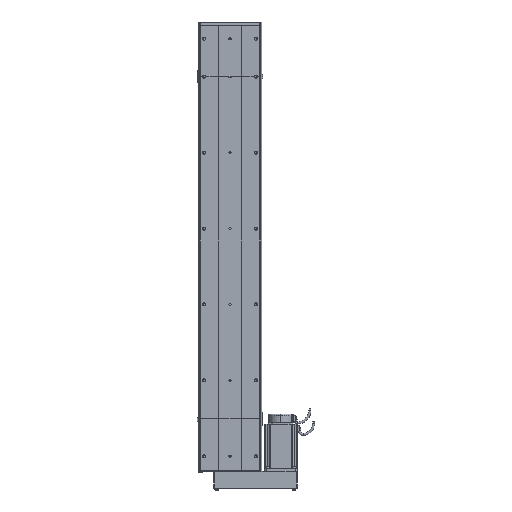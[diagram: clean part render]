
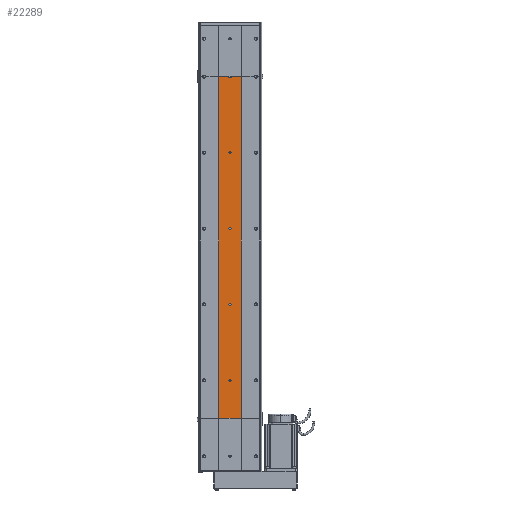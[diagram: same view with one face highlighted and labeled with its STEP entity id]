
A CAD part, front view. The second image highlights one B-rep face of the part: STEP entity #22289.
In plain terms, the highlighted planar face has unit normal (0, -1, 0).
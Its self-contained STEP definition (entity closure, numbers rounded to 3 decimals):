
#16789 = CARTESIAN_POINT ( 'NONE',  ( 0., -32.5, 897. ) ) ;
#16805 = CARTESIAN_POINT ( 'NONE',  ( 0., -32.5, 503. ) ) ;
#16828 = DIRECTION ( 'NONE',  ( 0., 0., -1. ) ) ;
#16829 = DIRECTION ( 'NONE',  ( 0., -1., 0. ) ) ;
#16830 = CARTESIAN_POINT ( 'NONE',  ( 0., -32.5, 700. ) ) ;
#16831 = AXIS2_PLACEMENT_3D ( 'NONE', #16830, #16829, #16828 ) ;
#16849 = CIRCLE ( 'NONE', #16831, 3. ) ;
#16856 = DIRECTION ( 'NONE',  ( 0., 0., 1. ) ) ;
#16857 = DIRECTION ( 'NONE',  ( 0., 1., 0. ) ) ;
#16858 = CARTESIAN_POINT ( 'NONE',  ( 0., -32.5, 900. ) ) ;
#16859 = AXIS2_PLACEMENT_3D ( 'NONE', #16858, #16857, #16856 ) ;
#16860 = CIRCLE ( 'NONE', #16859, 3. ) ;
#16863 = CARTESIAN_POINT ( 'NONE',  ( 3., -32.5, 900. ) ) ;
#16874 = CARTESIAN_POINT ( 'NONE',  ( 0., -32.5, 697. ) ) ;
#16876 = CARTESIAN_POINT ( 'NONE',  ( 0., -32.5, 303. ) ) ;
#16884 = CARTESIAN_POINT ( 'NONE',  ( 0., -32.5, 703. ) ) ;
#16964 = AXIS2_PLACEMENT_3D ( 'NONE', #17018, #17017, #17016 ) ;
#16967 = CARTESIAN_POINT ( 'NONE',  ( 0., -32.5, 497. ) ) ;
#16976 = CIRCLE ( 'NONE', #16964, 3. ) ;
#16977 = DIRECTION ( 'NONE',  ( 0., 0., -1. ) ) ;
#16978 = DIRECTION ( 'NONE',  ( 0., -1., 0. ) ) ;
#16979 = CARTESIAN_POINT ( 'NONE',  ( 0., -32.5, 300. ) ) ;
#16980 = AXIS2_PLACEMENT_3D ( 'NONE', #16979, #16978, #16977 ) ;
#16984 = CIRCLE ( 'NONE', #16980, 3. ) ;
#16989 = CARTESIAN_POINT ( 'NONE',  ( 0., -32.5, 297. ) ) ;
#17016 = DIRECTION ( 'NONE',  ( 0., 0., -1. ) ) ;
#17017 = DIRECTION ( 'NONE',  ( 0., -1., 0. ) ) ;
#17018 = CARTESIAN_POINT ( 'NONE',  ( 0., -32.5, 500. ) ) ;
#17337 = CARTESIAN_POINT ( 'NONE',  ( 0., -32.5, 103. ) ) ;
#17432 = DIRECTION ( 'NONE',  ( 0., -1., 0. ) ) ;
#17437 = CARTESIAN_POINT ( 'NONE',  ( 0., -32.5, 100. ) ) ;
#17453 = CIRCLE ( 'NONE', #17480, 3. ) ;
#17478 = CARTESIAN_POINT ( 'NONE',  ( 0., -32.5, 97. ) ) ;
#17479 = DIRECTION ( 'NONE',  ( 0., 0., -1. ) ) ;
#17480 = AXIS2_PLACEMENT_3D ( 'NONE', #17437, #17432, #17479 ) ;
#18513 = CARTESIAN_POINT ( 'NONE',  ( -3., -32.5, 900. ) ) ;
#18565 = CARTESIAN_POINT ( 'NONE',  ( -30., -32.5, 900. ) ) ;
#18576 = DIRECTION ( 'NONE',  ( -1., 0., 0. ) ) ;
#18577 = VECTOR ( 'NONE', #18576, 1000. ) ;
#18578 = CARTESIAN_POINT ( 'NONE',  ( -30., -32.5, 900. ) ) ;
#18579 = LINE ( 'NONE', #18578, #18577 ) ;
#18621 = CARTESIAN_POINT ( 'NONE',  ( 30., -32.5, 900. ) ) ;
#18626 = DIRECTION ( 'NONE',  ( -1., 0., 0. ) ) ;
#18627 = VECTOR ( 'NONE', #18626, 1000. ) ;
#18628 = CARTESIAN_POINT ( 'NONE',  ( -30., -32.5, 900. ) ) ;
#18629 = LINE ( 'NONE', #18628, #18627 ) ;
#22098 = DIRECTION ( 'NONE',  ( -1., 0., 0. ) ) ;
#22099 = VECTOR ( 'NONE', #22098, 1000. ) ;
#22117 = CARTESIAN_POINT ( 'NONE',  ( -30., -32.5, 0. ) ) ;
#22118 = LINE ( 'NONE', #22117, #22099 ) ;
#22276 = EDGE_LOOP ( 'NONE', ( #22415, #22313 ) ) ;
#22279 = EDGE_CURVE ( 'NONE', #62130, #59855, #33780, .T. ) ;
#22282 = EDGE_LOOP ( 'NONE', ( #22381, #22394 ) ) ;
#22289 = ADVANCED_FACE ( 'NONE', ( #33810, #33769, #33768, #33697, #33777 ), #33770, .F. ) ;
#22290 = CARTESIAN_POINT ( 'NONE',  ( 30., -32.5, 0. ) ) ;
#22291 = EDGE_CURVE ( 'NONE', #58700, #58581, #33883, .T. ) ;
#22293 = EDGE_CURVE ( 'NONE', #58604, #58636, #33761, .T. ) ;
#22312 = CARTESIAN_POINT ( 'NONE',  ( -30., -32.5, 0. ) ) ;
#22313 = ORIENTED_EDGE ( 'NONE', *, *, #58576, .F. ) ;
#22363 = EDGE_CURVE ( 'NONE', #58520, #59854, #34019, .T. ) ;
#22364 = ORIENTED_EDGE ( 'NONE', *, *, #62061, .F. ) ;
#22367 = ORIENTED_EDGE ( 'NONE', *, *, #22363, .T. ) ;
#22369 = ORIENTED_EDGE ( 'NONE', *, *, #22376, .T. ) ;
#22371 = ORIENTED_EDGE ( 'NONE', *, *, #22279, .F. ) ;
#22376 = EDGE_CURVE ( 'NONE', #62144, #59924, #33863, .T. ) ;
#22381 = ORIENTED_EDGE ( 'NONE', *, *, #22393, .F. ) ;
#22385 = EDGE_LOOP ( 'NONE', ( #22389, #22388 ) ) ;
#22388 = ORIENTED_EDGE ( 'NONE', *, *, #58704, .F. ) ;
#22389 = ORIENTED_EDGE ( 'NONE', *, *, #22291, .F. ) ;
#22390 = EDGE_LOOP ( 'NONE', ( #22392, #22409 ) ) ;
#22392 = ORIENTED_EDGE ( 'NONE', *, *, #22398, .F. ) ;
#22393 = EDGE_CURVE ( 'NONE', #58686, #58588, #34016, .T. ) ;
#22394 = ORIENTED_EDGE ( 'NONE', *, *, #58690, .F. ) ;
#22395 = EDGE_LOOP ( 'NONE', ( #22396, #22401, #22367, #22403, #22371, #22364, #22369 ) ) ;
#22396 = ORIENTED_EDGE ( 'NONE', *, *, #59940, .T. ) ;
#22398 = EDGE_CURVE ( 'NONE', #59095, #59029, #33986, .T. ) ;
#22401 = ORIENTED_EDGE ( 'NONE', *, *, #58602, .T. ) ;
#22403 = ORIENTED_EDGE ( 'NONE', *, *, #59881, .T. ) ;
#22409 = ORIENTED_EDGE ( 'NONE', *, *, #59082, .F. ) ;
#22415 = ORIENTED_EDGE ( 'NONE', *, *, #22293, .F. ) ;
#33697 = FACE_BOUND ( 'NONE', #22390, .T. ) ;
#33714 = VECTOR ( 'NONE', #33767, 1000. ) ;
#33757 = CARTESIAN_POINT ( 'NONE',  ( -30., -32.5, 0. ) ) ;
#33761 = CIRCLE ( 'NONE', #33763, 3. ) ;
#33763 = AXIS2_PLACEMENT_3D ( 'NONE', #33891, #33878, #33870 ) ;
#33765 = AXIS2_PLACEMENT_3D ( 'NONE', #33757, #33776, #33889 ) ;
#33767 = DIRECTION ( 'NONE',  ( 0., 0., 1. ) ) ;
#33768 = FACE_BOUND ( 'NONE', #22282, .T. ) ;
#33769 = FACE_BOUND ( 'NONE', #22385, .T. ) ;
#33770 = PLANE ( 'NONE',  #33765 ) ;
#33776 = DIRECTION ( 'NONE',  ( 0., 1., 0. ) ) ;
#33777 = FACE_OUTER_BOUND ( 'NONE', #22395, .T. ) ;
#33779 = CARTESIAN_POINT ( 'NONE',  ( -30., -32.5, 0. ) ) ;
#33780 = LINE ( 'NONE', #33779, #33714 ) ;
#33810 = FACE_BOUND ( 'NONE', #22276, .T. ) ;
#33863 = LINE ( 'NONE', #34010, #33912 ) ;
#33870 = DIRECTION ( 'NONE',  ( 0., 0., -1. ) ) ;
#33878 = DIRECTION ( 'NONE',  ( 0., -1., 0. ) ) ;
#33879 = DIRECTION ( 'NONE',  ( 0., 0., -1. ) ) ;
#33880 = DIRECTION ( 'NONE',  ( 0., -1., 0. ) ) ;
#33881 = CARTESIAN_POINT ( 'NONE',  ( 0., -32.5, 500. ) ) ;
#33882 = AXIS2_PLACEMENT_3D ( 'NONE', #33881, #33880, #33879 ) ;
#33883 = CIRCLE ( 'NONE', #33882, 3. ) ;
#33889 = DIRECTION ( 'NONE',  ( 0., 0., 1. ) ) ;
#33891 = CARTESIAN_POINT ( 'NONE',  ( 0., -32.5, 700. ) ) ;
#33912 = VECTOR ( 'NONE', #34008, 1000. ) ;
#33924 = CARTESIAN_POINT ( 'NONE',  ( 0., -32.5, 900. ) ) ;
#33965 = DIRECTION ( 'NONE',  ( 0., 0., -1. ) ) ;
#33967 = DIRECTION ( 'NONE',  ( 0., -1., 0. ) ) ;
#33969 = CARTESIAN_POINT ( 'NONE',  ( 0., -32.5, 100. ) ) ;
#33970 = AXIS2_PLACEMENT_3D ( 'NONE', #33969, #33967, #33965 ) ;
#33980 = DIRECTION ( 'NONE',  ( 0., 0., -1. ) ) ;
#33981 = DIRECTION ( 'NONE',  ( 0., -1., 0. ) ) ;
#33982 = CARTESIAN_POINT ( 'NONE',  ( 0., -32.5, 300. ) ) ;
#33983 = AXIS2_PLACEMENT_3D ( 'NONE', #33982, #33981, #33980 ) ;
#33986 = CIRCLE ( 'NONE', #33970, 3. ) ;
#33992 = DIRECTION ( 'NONE',  ( 0., 0., 1. ) ) ;
#33993 = DIRECTION ( 'NONE',  ( 0., 1., 0. ) ) ;
#34008 = DIRECTION ( 'NONE',  ( 0., 0., 1. ) ) ;
#34010 = CARTESIAN_POINT ( 'NONE',  ( 30., -32.5, 0. ) ) ;
#34016 = CIRCLE ( 'NONE', #33983, 3. ) ;
#34018 = AXIS2_PLACEMENT_3D ( 'NONE', #33924, #33993, #33992 ) ;
#34019 = CIRCLE ( 'NONE', #34018, 3. ) ;
#58520 = VERTEX_POINT ( 'NONE', #16789 ) ;
#58576 = EDGE_CURVE ( 'NONE', #58636, #58604, #16849, .T. ) ;
#58581 = VERTEX_POINT ( 'NONE', #16805 ) ;
#58588 = VERTEX_POINT ( 'NONE', #16876 ) ;
#58601 = VERTEX_POINT ( 'NONE', #16863 ) ;
#58602 = EDGE_CURVE ( 'NONE', #58601, #58520, #16860, .T. ) ;
#58604 = VERTEX_POINT ( 'NONE', #16874 ) ;
#58636 = VERTEX_POINT ( 'NONE', #16884 ) ;
#58686 = VERTEX_POINT ( 'NONE', #16989 ) ;
#58690 = EDGE_CURVE ( 'NONE', #58588, #58686, #16984, .T. ) ;
#58700 = VERTEX_POINT ( 'NONE', #16967 ) ;
#58704 = EDGE_CURVE ( 'NONE', #58581, #58700, #16976, .T. ) ;
#59029 = VERTEX_POINT ( 'NONE', #17337 ) ;
#59082 = EDGE_CURVE ( 'NONE', #59029, #59095, #17453, .T. ) ;
#59095 = VERTEX_POINT ( 'NONE', #17478 ) ;
#59854 = VERTEX_POINT ( 'NONE', #18513 ) ;
#59855 = VERTEX_POINT ( 'NONE', #18565 ) ;
#59881 = EDGE_CURVE ( 'NONE', #59854, #59855, #18579, .T. ) ;
#59924 = VERTEX_POINT ( 'NONE', #18621 ) ;
#59940 = EDGE_CURVE ( 'NONE', #59924, #58601, #18629, .T. ) ;
#62061 = EDGE_CURVE ( 'NONE', #62144, #62130, #22118, .T. ) ;
#62130 = VERTEX_POINT ( 'NONE', #22312 ) ;
#62144 = VERTEX_POINT ( 'NONE', #22290 ) ;
